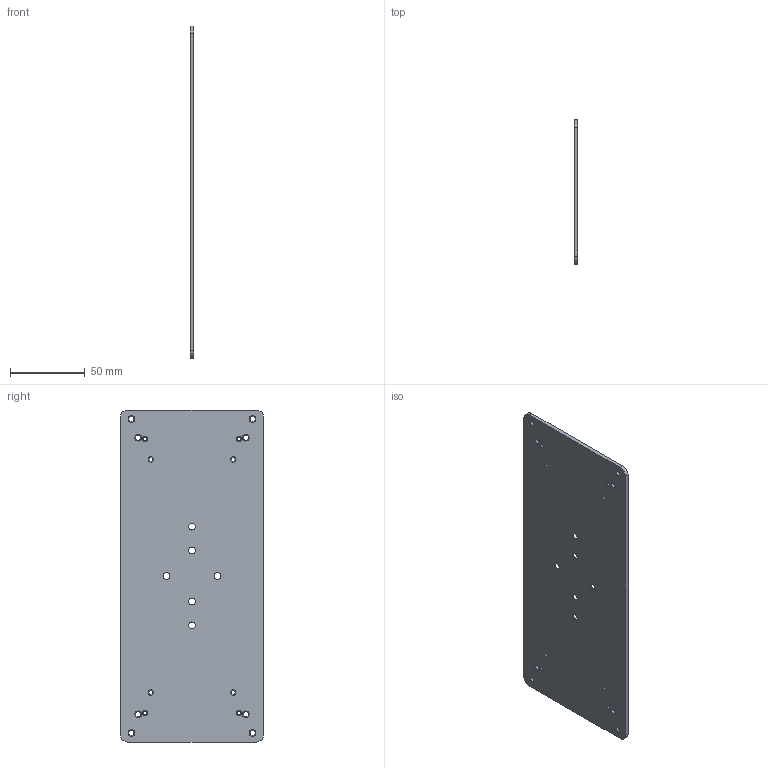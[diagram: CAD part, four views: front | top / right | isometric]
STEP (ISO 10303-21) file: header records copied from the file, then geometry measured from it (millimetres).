
FILE_DESCRIPTION((''),'2;1');
FILE_NAME('W:\mechanical\機構工程圖\3D圖檔\3D Outline-2020\已完成待審核\DRP-01A.stp','2020-05-28T16:32:43',('shirley'),(''),'Autodesk Inventor 2010','Autodesk Inventor 2010','');
FILE_SCHEMA(('AUTOMOTIVE_DESIGN { 1 0 10303 214 1 1 1 1 }'));
Length unit declared in the file: millimetre
Products named in the file (1): DRP-01A
Bounding box: 2.5 x 96 x 222 mm (x, y, z)
Volume: 52460.5 mm3; surface area: 44215.9 mm2
Topology: 1 solids, 1 shells, 54 faces, 200 edges, 164 vertices
Faces by surface type: cylinder 26, torus 16, bspline 6, plane 6
Full cylindrical faces by diameter (mm): 2.6 x8, 3.5 x8, 4.5 x6
Entity records: 2231 total; most frequent: CARTESIAN_POINT 413, DIRECTION 374, ORIENTED_EDGE 180, AXIS2_PLACEMENT_3D 175, EDGE_LOOP 142, CIRCLE 126, EDGE_CURVE 90, FACE_BOUND 88
